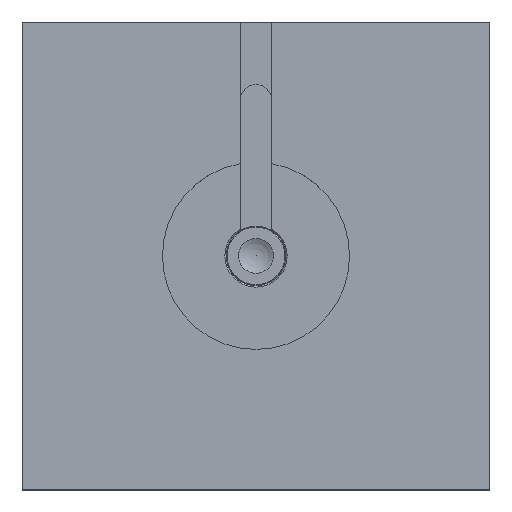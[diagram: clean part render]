
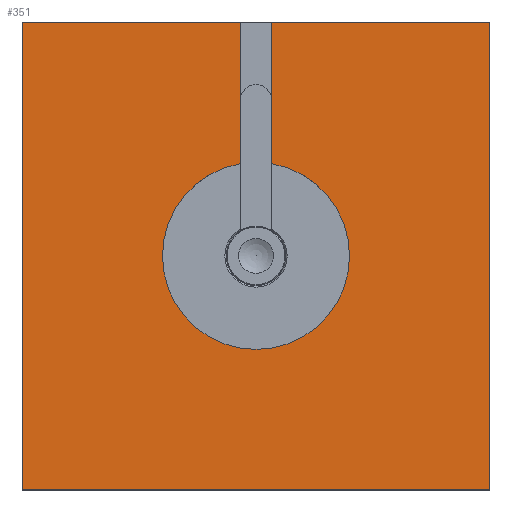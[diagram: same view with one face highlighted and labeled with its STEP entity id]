
A CAD part, top view. The second image highlights one B-rep face of the part: STEP entity #351.
In plain terms, the highlighted planar face has unit normal (0, 0, 1).
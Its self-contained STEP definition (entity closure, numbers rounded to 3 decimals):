
#351 = ADVANCED_FACE( '', ( #734 ), #735, .T. );
#734 = FACE_OUTER_BOUND( '', #1198, .T. );
#735 = PLANE( '', #1199 );
#1198 = EDGE_LOOP( '', ( #1914, #1915, #1916, #1917, #1918, #1919, #1920, #1921 ) );
#1199 = AXIS2_PLACEMENT_3D( '', #1922, #1923, #1924 );
#1914 = ORIENTED_EDGE( '', *, *, #2240, .T. );
#1915 = ORIENTED_EDGE( '', *, *, #2204, .T. );
#1916 = ORIENTED_EDGE( '', *, *, #2255, .T. );
#1917 = ORIENTED_EDGE( '', *, *, #2184, .T. );
#1918 = ORIENTED_EDGE( '', *, *, #2084, .T. );
#1919 = ORIENTED_EDGE( '', *, *, #2190, .T. );
#1920 = ORIENTED_EDGE( '', *, *, #2256, .T. );
#1921 = ORIENTED_EDGE( '', *, *, #2105, .T. );
#1922 = CARTESIAN_POINT( '', ( -150., -150., 0. ) );
#1923 = DIRECTION( '', ( 0., 0., 1. ) );
#1924 = DIRECTION( '', ( 0., -1., 0. ) );
#2084 = EDGE_CURVE( '', #2433, #2434, #2435, .T. );
#2105 = EDGE_CURVE( '', #2467, #2465, #2468, .T. );
#2184 = EDGE_CURVE( '', #2587, #2433, #2588, .T. );
#2190 = EDGE_CURVE( '', #2434, #2595, #2596, .T. );
#2204 = EDGE_CURVE( '', #2615, #2616, #2617, .T. );
#2240 = EDGE_CURVE( '', #2465, #2615, #2663, .T. );
#2255 = EDGE_CURVE( '', #2616, #2587, #2680, .T. );
#2256 = EDGE_CURVE( '', #2595, #2467, #2681, .T. );
#2433 = VERTEX_POINT( '', #2955 );
#2434 = VERTEX_POINT( '', #2956 );
#2435 = LINE( '', #2957, #2958 );
#2465 = VERTEX_POINT( '', #2995 );
#2467 = VERTEX_POINT( '', #2998 );
#2468 = LINE( '', #2999, #3000 );
#2587 = VERTEX_POINT( '', #3139 );
#2588 = LINE( '', #3140, #3141 );
#2595 = VERTEX_POINT( '', #3152 );
#2596 = LINE( '', #3153, #3154 );
#2615 = VERTEX_POINT( '', #3175 );
#2616 = VERTEX_POINT( '', #3176 );
#2617 = LINE( '', #3177, #3178 );
#2663 = CIRCLE( '', #3235, 60. );
#2680 = LINE( '', #3252, #3253 );
#2681 = LINE( '', #3254, #3255 );
#2955 = CARTESIAN_POINT( '', ( -150., -150., 0. ) );
#2956 = CARTESIAN_POINT( '', ( 150., -150., 0. ) );
#2957 = CARTESIAN_POINT( '', ( -150., -150., 0. ) );
#2958 = VECTOR( '', #3415, 1000. );
#2995 = CARTESIAN_POINT( '', ( 10., 59.161, 0. ) );
#2998 = CARTESIAN_POINT( '', ( 10., 150., 0. ) );
#2999 = CARTESIAN_POINT( '', ( 10., 150., 0. ) );
#3000 = VECTOR( '', #3442, 1000. );
#3139 = CARTESIAN_POINT( '', ( -150., 150., 0. ) );
#3140 = CARTESIAN_POINT( '', ( -150., 150., 0. ) );
#3141 = VECTOR( '', #3559, 1000. );
#3152 = CARTESIAN_POINT( '', ( 150., 150., 0. ) );
#3153 = CARTESIAN_POINT( '', ( 150., -150., 0. ) );
#3154 = VECTOR( '', #3564, 1000. );
#3175 = CARTESIAN_POINT( '', ( -10., 59.161, 0. ) );
#3176 = CARTESIAN_POINT( '', ( -10., 150., 0. ) );
#3177 = CARTESIAN_POINT( '', ( -10., 0., 0. ) );
#3178 = VECTOR( '', #3582, 1000. );
#3235 = AXIS2_PLACEMENT_3D( '', #3618, #3619, #3620 );
#3252 = CARTESIAN_POINT( '', ( 150., 150., 0. ) );
#3253 = VECTOR( '', #3630, 1000. );
#3254 = CARTESIAN_POINT( '', ( 150., 150., 0. ) );
#3255 = VECTOR( '', #3631, 1000. );
#3415 = DIRECTION( '', ( 1., 0., 0. ) );
#3442 = DIRECTION( '', ( 0., -1., 0. ) );
#3559 = DIRECTION( '', ( 0., -1., 0. ) );
#3564 = DIRECTION( '', ( 0., 1., 0. ) );
#3582 = DIRECTION( '', ( 0., 1., 0. ) );
#3618 = CARTESIAN_POINT( '', ( 0., 0., 0. ) );
#3619 = DIRECTION( '', ( 0., 0., -1. ) );
#3620 = DIRECTION( '', ( -1., 0., 0. ) );
#3630 = DIRECTION( '', ( -1., 0., 0. ) );
#3631 = DIRECTION( '', ( -1., 0., 0. ) );
